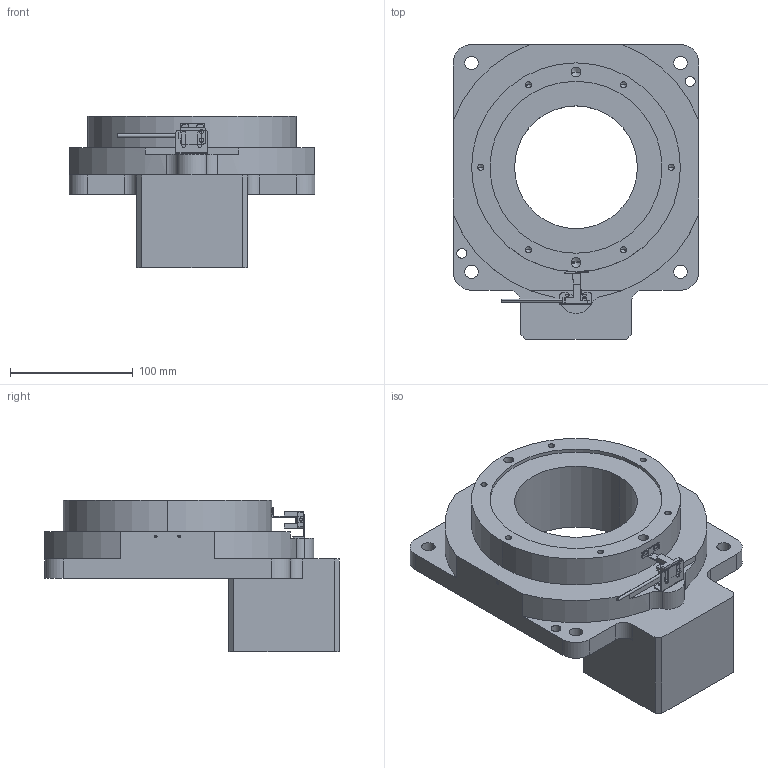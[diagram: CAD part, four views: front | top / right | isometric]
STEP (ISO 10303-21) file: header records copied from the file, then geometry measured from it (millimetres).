
FILE_DESCRIPTION (( 'STEP AP203' ), '1' );
FILE_NAME ('RTN200-10K-14-50-70-M4(¼Ó¸ß63.5).STEP', '2024-05-21T10:25:50', ( '' ), ( '' ), 'SwSTEP 2.0', 'SolidWorks 2023', '' );
FILE_SCHEMA (( 'CONFIG_CONTROL_DESIGN' ));
Length unit declared in the file: millimetre
Products named in the file (1): RTN200-10K-14-50-70-M4(加高63.5)
Bounding box: 200 x 240 x 123.5 mm (x, y, z)
Volume: 1952604.1 mm3; surface area: 168041.5 mm2
Topology: 4 solids, 6 shells, 266 faces, 703 edges, 435 vertices
Faces by surface type: cylinder 115, plane 111, cone 40
Entity records: 8079 total; most frequent: DIRECTION 1430, CARTESIAN_POINT 1365, ORIENTED_EDGE 1326, EDGE_CURVE 663, AXIS2_PLACEMENT_3D 500, VERTEX_POINT 435, VECTOR 430, LINE 430
